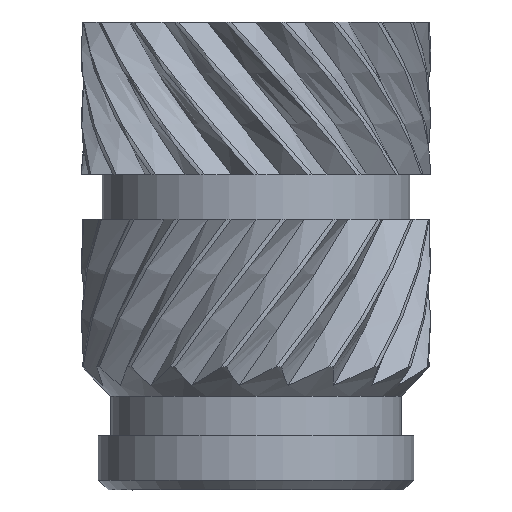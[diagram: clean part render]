
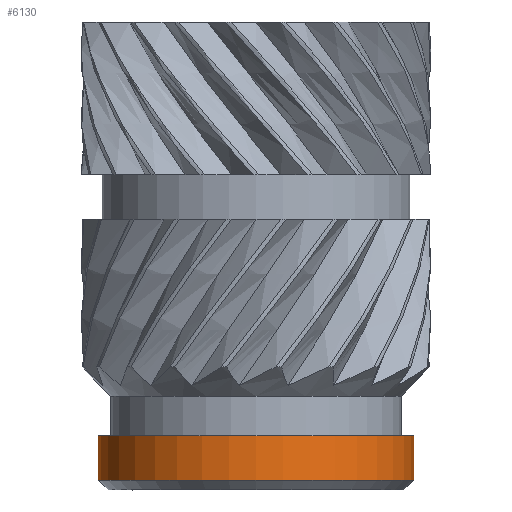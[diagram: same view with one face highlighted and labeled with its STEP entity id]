
A CAD part, front view. The second image highlights one B-rep face of the part: STEP entity #6130.
In plain terms, the highlighted cylindrical face has radius 3.2 mm (diameter 6.4 mm), a full revolution.
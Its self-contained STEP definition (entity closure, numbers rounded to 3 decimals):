
#473=FACE_OUTER_BOUND('',#830,.T.);
#830=EDGE_LOOP('',(#4876,#4877,#4878,#4879,#4880));
#1099=CIRCLE('',#6475,3.2);
#1122=CIRCLE('',#6521,3.2);
#1123=CIRCLE('',#6522,3.2);
#1696=LINE('',#12737,#2029);
#2029=VECTOR('',#6993,3.2);
#2585=VERTEX_POINT('',#10451);
#2645=VERTEX_POINT('',#12731);
#2646=VERTEX_POINT('',#12732);
#3321=EDGE_CURVE('',#2585,#2585,#1099,.T.);
#3447=EDGE_CURVE('',#2645,#2646,#1122,.T.);
#3448=EDGE_CURVE('',#2646,#2645,#1123,.T.);
#3450=EDGE_CURVE('',#2585,#2646,#1696,.T.);
#4876=ORIENTED_EDGE('',*,*,#3321,.F.);
#4877=ORIENTED_EDGE('',*,*,#3450,.T.);
#4878=ORIENTED_EDGE('',*,*,#3447,.F.);
#4879=ORIENTED_EDGE('',*,*,#3448,.F.);
#4880=ORIENTED_EDGE('',*,*,#3450,.F.);
#5968=CYLINDRICAL_SURFACE('',#6523,3.2);
#6130=ADVANCED_FACE('',(#473),#5968,.T.);
#6475=AXIS2_PLACEMENT_3D('',#10452,#6894,#6895);
#6521=AXIS2_PLACEMENT_3D('',#12733,#6986,#6987);
#6522=AXIS2_PLACEMENT_3D('',#12734,#6988,#6989);
#6523=AXIS2_PLACEMENT_3D('',#12736,#6991,#6992);
#6894=DIRECTION('center_axis',(0.,0.,1.));
#6895=DIRECTION('ref_axis',(1.,0.,0.));
#6986=DIRECTION('center_axis',(0.,0.,-1.));
#6987=DIRECTION('ref_axis',(-1.,0.,0.));
#6988=DIRECTION('center_axis',(0.,0.,-1.));
#6989=DIRECTION('ref_axis',(-1.,0.,0.));
#6991=DIRECTION('center_axis',(0.,0.,1.));
#6992=DIRECTION('ref_axis',(1.,0.,0.));
#6993=DIRECTION('',(0.,0.,-1.));
#10451=CARTESIAN_POINT('',(-3.2,0.,1.1));
#10452=CARTESIAN_POINT('Origin',(0.,0.,1.1));
#12731=CARTESIAN_POINT('',(3.2,0.,0.2));
#12732=CARTESIAN_POINT('',(-3.2,0.,0.2));
#12733=CARTESIAN_POINT('Origin',(0.,0.,0.2));
#12734=CARTESIAN_POINT('Origin',(0.,0.,0.2));
#12736=CARTESIAN_POINT('Origin',(0.,0.,0.55));
#12737=CARTESIAN_POINT('',(-3.2,0.,0.55));
